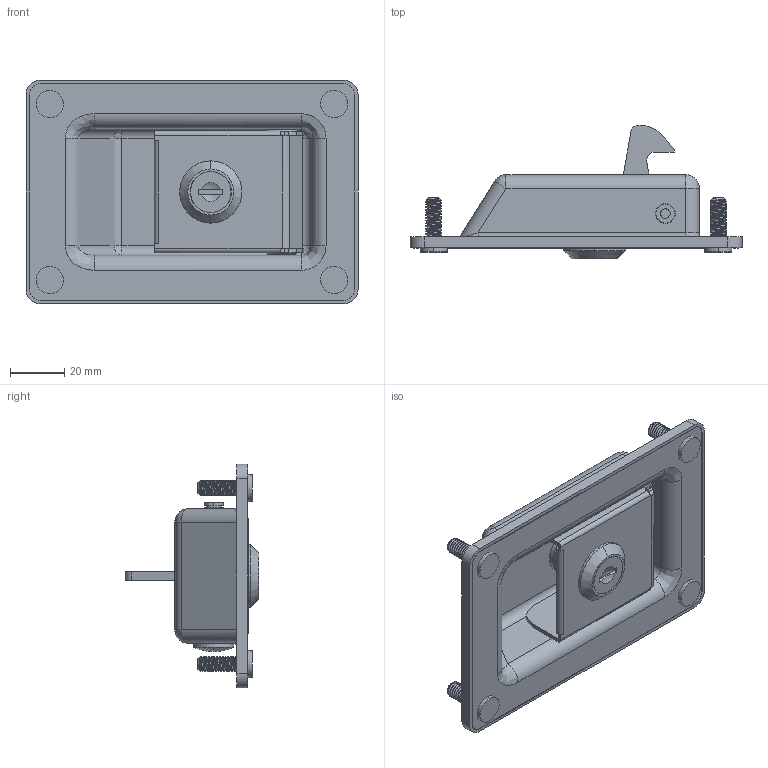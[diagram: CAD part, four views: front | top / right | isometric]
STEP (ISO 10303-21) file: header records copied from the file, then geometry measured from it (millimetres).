
FILE_DESCRIPTION (( 'STEP AP203' ), '1' );
FILE_NAME ('SK1-5004-3.STEP', '2018-01-09T07:40:40', ( 'admin' ), ( 'Microsoft' ), 'SwSTEP 2.0', 'SolidWorks 2015', '' );
FILE_SCHEMA (( 'CONFIG_CONTROL_DESIGN' ));
Length unit declared in the file: millimetre
Products named in the file (18): SK1-5004-3种隊; 圆头十字M5公称长度6; SK1-5004-3蹟隊1; M20  鼠備4; SK1-5004-3蹟隊2; SK1-003-2桯嶄; SK1-5004-3蹟隊3; SK1-5004-3翋极; SK1-5004-3; SK1-5004-3蹟隊4; SK1-5004-3參抎; SK1-5004-3坶蜇璃; SK1-5004-3像赽蜇璃1; SK1-003-2; SK1-5004-3像赽; SK1-003-2菜え; SK1-5004-3砎蝶菜; SK1-003-2坶え
Assembly tree (17 placements, depth 3):
  SK1-5004-3
    SK1-5004-3翋极
    SK1-5004-3參抎
    SK1-5004-3像赽蜇璃1
    SK1-5004-3像赽
    SK1-5004-3砎蝶菜
    SK1-5004-3种隊
    SK1-5004-3蹟隊1
    SK1-5004-3蹟隊2
    SK1-5004-3蹟隊3
    SK1-5004-3蹟隊4
    SK1-5004-3坶蜇璃
    SK1-003-2桯嶄
      SK1-003-2
      SK1-003-2菜え
      SK1-003-2坶え
      圆头十字M5公称长度6
      M20  鼠備4
Bounding box: 122.6 x 49.45 x 82.6 mm (x, y, z)
Volume: 53992.3 mm3; surface area: 64453.1 mm2
Topology: 16 solids, 16 shells, 694 faces, 2143 edges, 1491 vertices
Faces by surface type: cylinder 334, plane 209, bspline 123, cone 25, sphere 3
Entity records: 68142 total; most frequent: CARTESIAN_POINT 49086, ORIENTED_EDGE 4258, DIRECTION 2669, EDGE_CURVE 2129, VERTEX_POINT 1490, AXIS2_PLACEMENT_3D 919, B_SPLINE_CURVE_WITH_KNOTS 849, VECTOR 831
